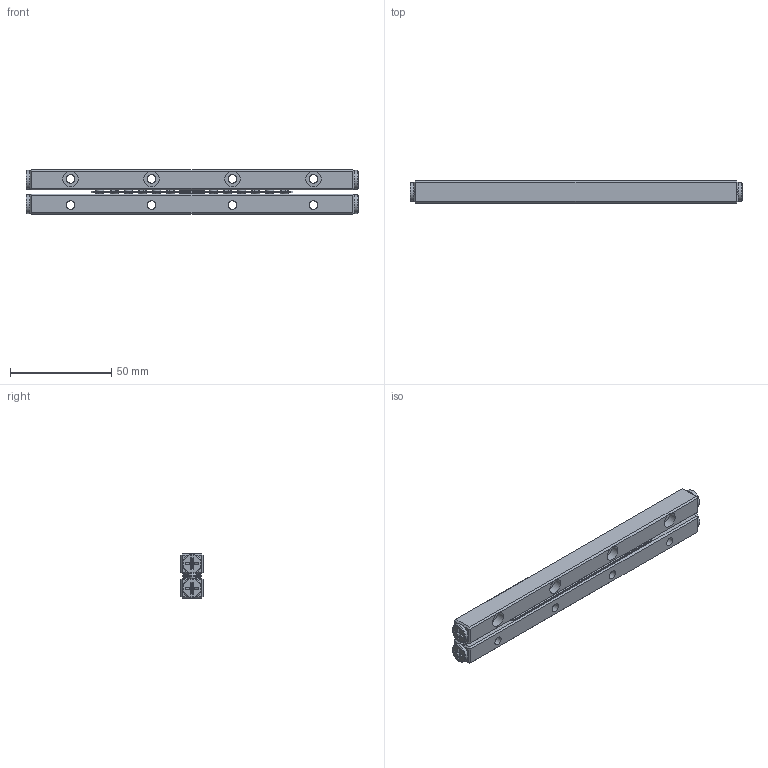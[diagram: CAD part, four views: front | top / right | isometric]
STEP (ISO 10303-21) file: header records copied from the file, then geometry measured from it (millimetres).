
FILE_DESCRIPTION (( 'STEP AP203' ), '1' );
FILE_NAME ('GRG04-0160-模糊化軌道組.STEP', '2022-10-31T03:29:20', ( '' ), ( '' ), 'SwSTEP 2.0', 'SolidWorks 2019', '' );
FILE_SCHEMA (( 'CONFIG_CONTROL_DESIGN' ));
Length unit declared in the file: millimetre
Products named in the file (1): GRG04-0160-模糊化軌道組
Bounding box: 164 x 11 x 22 mm (x, y, z)
Volume: 32639.7 mm3; surface area: 18490.6 mm2
Topology: 3 solids, 7 shells, 442 faces, 1074 edges, 670 vertices
Faces by surface type: plane 320, cylinder 50, cone 40, torus 32
Full cylindrical faces by diameter (mm): 3.35 x4, 4.3 x8, 7.6 x8, 9.3 x4
Entity records: 12609 total; most frequent: CARTESIAN_POINT 2719, ORIENTED_EDGE 2016, DIRECTION 1950, EDGE_CURVE 1008, VECTOR 696, LINE 696, VERTEX_POINT 644, AXIS2_PLACEMENT_3D 627
